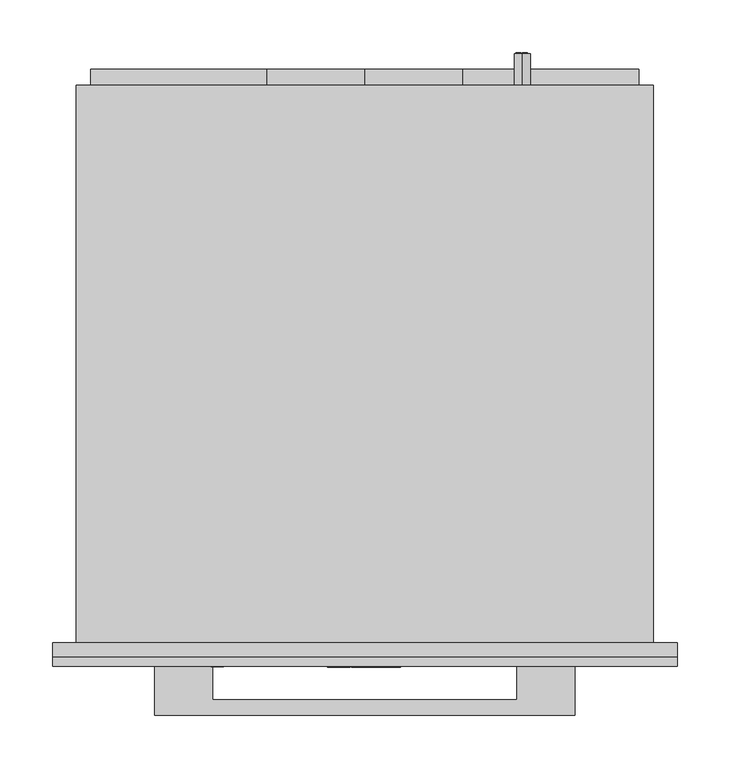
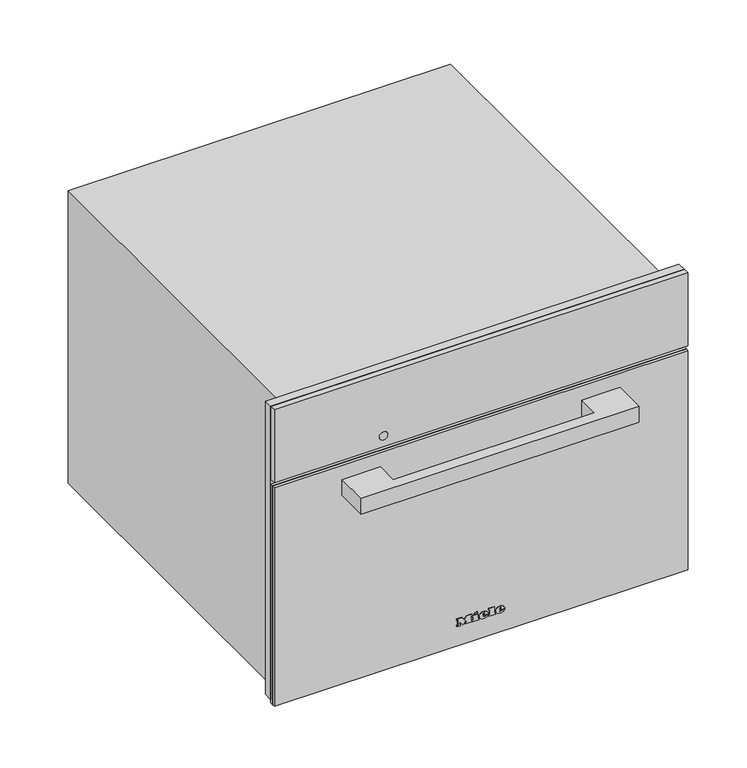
"""IFC4 building model written with IfcOpenShell, lengths in millimetres: proxy geometry, 11134220_I_DG7240_OBSW : 23724020_I_11134220_DG7240_OBSW."""

from ifc_helpers import new_model, si_unit, point, frame, frame_2d, origin, place, context, project, spatial, polyline, circle_curve, ellipse_curve, trimmed, segment, composite_curve, outline, extrude, faceted_brep, source, transform, mapped, element, save
from ifc_brep_helpers import plane_surface, cylinder_surface, revolved_surface, extruded_surface, advanced_brep


def specialty_equipment_6ac7eda2(model_context):
    return source(origin(), model_context, "Body", "SolidModel", [
        extrude(outline(polyline([(455.0, 297.5), (455.0, -297.5), (9.0, -297.5), (9.0, -272.5), (344.0, -272.5), (344.0, 272.5), (9.0, 272.5), (9.0, 297.5), (455.0, 297.5)])), frame((0.0, -13.0, 0.0), z_axis=(0.0, 1.0, 0.0), x_axis=(0.0, 0.0, 1.0)), (0.0, 0.0, 1.0), 13.0),
        advanced_brep(
        [(150.0, 561.0, 410.5), (150.0, 561.0, 395.5), (144.4098301, 561.0, 398.0), (148.5, 561.0, 398.0), (148.5, 561.0, 408.0), (147.4955303, 561.0, 408.0), (147.4955303, 561.0, 399.0), (144.0315043, 561.0, 399.0), (144.0315043, 561.0, 398.4582978), (155.0, 561.0, 398.0), (155.0, 561.0, 408.0), (150.0, 561.0, 408.0), (150.0, 561.0, 407.0), (154.0, 561.0, 407.0), (154.0, 561.0, 403.5), (151.0, 561.0, 403.5), (151.0, 561.0, 402.5), (154.0, 561.0, 402.5), (154.0, 561.0, 399.0), (150.0, 561.0, 399.0), (150.0, 561.0, 398.0), (150.0, 531.0, 395.5), (150.0, 531.0, 410.5), (155.0, 562.0, 408.0), (155.0, 562.0, 398.0), (150.0, 562.0, 398.0), (150.0, 562.0, 399.0), (154.0, 562.0, 399.0), (154.0, 562.0, 402.5), (151.0, 562.0, 402.5), (151.0, 562.0, 403.5), (154.0, 562.0, 403.5), (154.0, 562.0, 407.0), (150.0, 562.0, 407.0), (150.0, 562.0, 408.0), (148.5, 562.0, 398.0), (144.0315043, 562.0, 398.0), (144.0315043, 562.0, 399.0), (147.4955303, 562.0, 399.0), (147.4955303, 562.0, 408.0), (148.5, 562.0, 408.0), (144.0315043, 561.0, 398.0)],
        [
            (0, 1, circle_curve(frame((150.0, 561.0, 403.0), z_axis=(0.0, 1.0, 0.0), x_axis=(0.0, 0.0, 1.0)), 7.5)),
            (1, 2, circle_curve(frame((150.0, 561.0, 403.0), z_axis=(0.0, 1.0, 0.0), x_axis=(0.0, 0.0, 1.0)), 7.5)),
            (2, 3),
            (3, 4),
            (4, 5),
            (5, 6),
            (6, 7),
            (7, 8),
            (8, 0, circle_curve(frame((150.0, 561.0, 403.0), z_axis=(0.0, 1.0, 0.0), x_axis=(0.0, 0.0, 1.0)), 7.5)),
            (9, 10),
            (10, 11),
            (11, 12),
            (12, 13),
            (13, 14),
            (14, 15),
            (15, 16),
            (16, 17),
            (17, 18),
            (18, 19),
            (19, 20),
            (20, 9),
            (21, 22, circle_curve(frame((150.0, 531.0, 403.0), z_axis=(0.0, -1.0, 0.0), x_axis=(0.0, 0.0, 1.0)), 7.5)),
            (22, 21, circle_curve(frame((150.0, 531.0, 403.0), z_axis=(0.0, -1.0, 0.0), x_axis=(0.0, 0.0, 1.0)), 7.5)),
            (0, 22),
            (21, 1),
            (8, 2, circle_curve(frame((150.0, 561.0, 403.0), z_axis=(0.0, -1.0, 0.0), x_axis=(0.0, 0.0, 1.0)), 7.5)),
            (23, 24),
            (24, 25),
            (25, 26),
            (26, 27),
            (27, 28),
            (28, 29),
            (29, 30),
            (30, 31),
            (31, 32),
            (32, 33),
            (33, 34),
            (34, 23),
            (35, 36),
            (36, 37),
            (37, 38),
            (38, 39),
            (39, 40),
            (40, 35),
            (8, 41),
            (41, 2),
            (23, 10),
            (9, 24),
            (20, 25),
            (19, 26),
            (18, 27),
            (17, 28),
            (16, 29),
            (15, 30),
            (14, 31),
            (13, 32),
            (12, 33),
            (11, 34),
            (35, 3),
            (41, 36),
            (7, 37),
            (6, 38),
            (5, 39),
            (4, 40),
        ],
        [
            plane_surface(frame((150.0, 561.0, 410.5), z_axis=(0.0, 1.0, 0.0), x_axis=(1.0, 0.0, 0.0))),
            plane_surface(frame((150.0, 531.0, 410.5), z_axis=(0.0, -1.0, 0.0), x_axis=(-1.0, 0.0, 0.0))),
            cylinder_surface(frame((150.0, 561.0, 403.0), z_axis=(0.0, -1.0, 0.0), x_axis=(0.0, 0.0, 1.0)), 7.5),
            plane_surface(frame((155.0, 562.0, 408.0), z_axis=(0.0, 1.0, 0.0), x_axis=(0.0, 0.0, -1.0))),
            plane_surface(frame((155.0, 561.0, 408.0), z_axis=(0.0, -1.0, 0.0), x_axis=(0.0, 0.0, 1.0))),
            plane_surface(frame((155.0, 562.0, 408.0), z_axis=(1.0, 0.0, 0.0), x_axis=(0.0, -1.0, 0.0))),
            plane_surface(frame((155.0, 562.0, 398.0), z_axis=(0.0, 0.0, -1.0), x_axis=(0.0, -1.0, 0.0))),
            plane_surface(frame((150.0, 562.0, 398.0), z_axis=(-1.0, 0.0, 0.0), x_axis=(0.0, -1.0, 0.0))),
            plane_surface(frame((150.0, 562.0, 399.0), z_axis=(0.0, 0.0, 1.0), x_axis=(0.0, -1.0, 0.0))),
            plane_surface(frame((154.0, 562.0, 399.0), z_axis=(-1.0, 0.0, 0.0), x_axis=(0.0, -1.0, 0.0))),
            plane_surface(frame((154.0, 562.0, 402.5), z_axis=(0.0, 0.0, -1.0), x_axis=(0.0, -1.0, 0.0))),
            plane_surface(frame((151.0, 562.0, 402.5), z_axis=(-1.0, 0.0, 0.0), x_axis=(0.0, -1.0, 0.0))),
            plane_surface(frame((151.0, 562.0, 403.5), z_axis=(0.0, 0.0, 1.0), x_axis=(0.0, -1.0, 0.0))),
            plane_surface(frame((154.0, 562.0, 403.5), z_axis=(-1.0, 0.0, 0.0), x_axis=(0.0, -1.0, 0.0))),
            plane_surface(frame((154.0, 562.0, 407.0), z_axis=(0.0, 0.0, -1.0), x_axis=(0.0, -1.0, 0.0))),
            plane_surface(frame((150.0, 562.0, 407.0), z_axis=(-1.0, 0.0, 0.0), x_axis=(0.0, -1.0, 0.0))),
            plane_surface(frame((150.0, 562.0, 408.0), z_axis=(0.0, 0.0, 1.0), x_axis=(0.0, -1.0, 0.0))),
            plane_surface(frame((148.5, 562.0, 398.0), z_axis=(0.0, 0.0, -1.0), x_axis=(0.0, -1.0, 0.0))),
            plane_surface(frame((144.0315043, 562.0, 398.0), z_axis=(-1.0, 0.0, 0.0), x_axis=(0.0, -1.0, 0.0))),
            plane_surface(frame((144.0315043, 562.0, 399.0), z_axis=(0.0, 0.0, 1.0), x_axis=(0.0, -1.0, 0.0))),
            plane_surface(frame((147.4955303, 562.0, 399.0), z_axis=(-1.0, 0.0, 0.0), x_axis=(0.0, -1.0, 0.0))),
            plane_surface(frame((147.4955303, 562.0, 408.0), z_axis=(0.0, 0.0, 1.0), x_axis=(0.0, -1.0, 0.0))),
            plane_surface(frame((148.5, 562.0, 408.0), z_axis=(1.0, 0.0, 0.0), x_axis=(0.0, -1.0, 0.0))),
        ],
        [
            (0, [[1, 2, 3, 4, 5, 6, 7, 8, 9], [10, 11, 12, 13, 14, 15, 16, 17, 18, 19, 20, 21]]),
            (1, [[22, 23]]),
            (2, [[-1, 24, -22, 25]]),
            (2, [[-23, -24, -9, 26, -2, -25]]),
            (3, [[27, 28, 29, 30, 31, 32, 33, 34, 35, 36, 37, 38]]),
            (3, [[39, 40, 41, 42, 43, 44]]),
            (4, [[45, 46, -26]]),
            (5, [[-27, 47, -10, 48]]),
            (6, [[-28, -48, -21, 49]]),
            (7, [[-29, -49, -20, 50]]),
            (8, [[-30, -50, -19, 51]]),
            (9, [[-31, -51, -18, 52]]),
            (10, [[-32, -52, -17, 53]]),
            (11, [[-33, -53, -16, 54]]),
            (12, [[-34, -54, -15, 55]]),
            (13, [[-35, -55, -14, 56]]),
            (14, [[-36, -56, -13, 57]]),
            (15, [[-37, -57, -12, 58]]),
            (16, [[-38, -58, -11, -47]]),
            (17, [[-39, 59, -3, -46, 60]]),
            (18, [[-40, -60, -45, -8, 61]]),
            (19, [[-41, -61, -7, 62]]),
            (20, [[-42, -62, -6, 63]]),
            (21, [[-43, -63, -5, 64]]),
            (22, [[-44, -64, -4, -59]]),
        ],
    ),
        extrude(outline(polyline([(299.0, -93.0), (258.0, -93.0), (258.0, -261.0), (111.0, -261.0), (111.0, -93.0), (70.0, -93.0), (70.0, 0.0), (70.0, 93.0), (111.0, 93.0), (111.0, 261.0), (258.0, 261.0), (258.0, 93.0), (299.0, 93.0), (299.0, 0.0), (299.0, -93.0)])), frame((0.0, 531.0, 0.0), z_axis=(0.0, 1.0, 0.0), x_axis=(0.0, 0.0, 1.0)), (0.0, 0.0, 1.0), 15.0),
        faceted_brep([(275.0, 531.0, 445.0), (275.0, 531.0, 0.0), (-275.0, 531.0, 0.0), (-275.0, 531.0, 445.0), (275.0, 0.0, 445.0), (-275.0, 0.0, 445.0), (-275.0, 0.0, 0.0), (275.0, 0.0, 0.0), (-272.5, 0.0, 344.0), (272.5, 0.0, 344.0), (272.5, 0.0, 8.0), (-272.5, 0.0, 8.0), (272.5, 34.0, 344.0), (-272.5, 34.0, 344.0), (-272.5, 34.0, 8.0), (272.5, 34.0, 8.0), (161.0, 34.0, 286.0), (161.0, 34.0, 58.0), (-220.0, 34.0, 58.0), (-220.0, 34.0, 286.0), (161.0, 444.0, 286.0), (-220.0, 444.0, 286.0), (-220.0, 444.0, 58.0), (161.0, 444.0, 58.0)], [[[0, 1, 2, 3]], [[4, 5, 6, 7], [8, 9, 10, 11]], [[0, 3, 5, 4]], [[3, 2, 6, 5]], [[2, 1, 7, 6]], [[1, 0, 4, 7]], [[12, 13, 14, 15], [16, 17, 18, 19]], [[13, 12, 9, 8]], [[14, 13, 8, 11]], [[15, 14, 11, 10]], [[12, 15, 10, 9]], [[20, 21, 22, 23]], [[20, 23, 17, 16]], [[23, 22, 18, 17]], [[22, 21, 19, 18]], [[21, 20, 16, 19]]]),
        advanced_brep(
        [(26.2998, -23.0, 36.7018), (26.2998, -23.0, 37.8532), (33.9264, -23.0, 37.8532), (20.6568, -23.0, 37.8532), (23.7918, -23.0, 34.0), (33.7326, -23.0, 36.7018), (30.2898, -23.0, 36.7018), (27.5766, -23.0, 35.425), (26.2998, -23.0, 39.3124), (26.2998, -23.0, 40.555), (28.2492, -23.0, 40.555), (28.2492, -23.0, 39.3124), (26.2998, -22.0, 36.7018), (27.5766, -22.0, 35.425), (30.2898, -22.0, 36.7018), (33.7326, -22.0, 36.7018), (23.7918, -22.0, 34.0), (20.6568, -22.0, 37.8532), (33.9264, -22.0, 37.8532), (26.2998, -22.0, 37.8532), (26.2998, -22.0, 39.3124), (28.2492, -22.0, 39.3124), (28.2492, -22.0, 40.555), (26.2998, -22.0, 40.555)],
        [
            (0, 1),
            (1, 2),
            (2, 3, ellipse_curve(frame((27.2916, -23.0, 37.8532), z_axis=(0.0, -1.0, 0.0), x_axis=(-1.0, 0.0, 0.0)), 6.6348, 5.4834)),
            (3, 4, circle_curve(frame((25.0686622, -23.0, 38.2408), z_axis=(0.0, -1.0, 0.0), x_axis=(0.0, 0.0, -1.0)), 4.4288556)),
            (4, 5, circle_curve(frame((27.1587808, -23.0, 41.2504), z_axis=(0.0, -1.0, 0.0), x_axis=(0.0, 0.0, -1.0)), 7.9940516)),
            (5, 6),
            (6, 7, circle_curve(frame((28.1338588, -23.0, 37.762), z_axis=(0.0, 1.0, 0.0), x_axis=(0.0, 0.0, -1.0)), 2.4025208)),
            (7, 0, circle_curve(frame((27.5766, -23.0, 36.7018), z_axis=(0.0, 1.0, 0.0), x_axis=(0.0, 0.0, -1.0)), 1.2768)),
            (8, 9),
            (9, 10, circle_curve(frame((27.2745, -23.0, 40.555), z_axis=(0.0, 1.0, 0.0), x_axis=(0.0, 0.0, -1.0)), 0.9747)),
            (10, 11),
            (11, 8),
            (12, 13, circle_curve(frame((27.5766, -22.0, 36.7018), z_axis=(0.0, -1.0, 0.0), x_axis=(0.0, 0.0, -1.0)), 1.2768)),
            (13, 14, circle_curve(frame((28.1338588, -22.0, 37.762), z_axis=(0.0, -1.0, 0.0), x_axis=(0.0, 0.0, -1.0)), 2.4025208)),
            (14, 15),
            (15, 16, circle_curve(frame((27.1587808, -22.0, 41.2504), z_axis=(0.0, 1.0, 0.0), x_axis=(0.0, 0.0, -1.0)), 7.9940516)),
            (16, 17, circle_curve(frame((25.0686622, -22.0, 38.2408), z_axis=(0.0, 1.0, 0.0), x_axis=(0.0, 0.0, -1.0)), 4.4288556)),
            (17, 18, ellipse_curve(frame((27.2916, -22.0, 37.8532), z_axis=(0.0, 1.0, 0.0), x_axis=(-1.0, 0.0, 0.0)), 6.6348, 5.4834)),
            (18, 19),
            (19, 12),
            (20, 21),
            (21, 22),
            (22, 23, circle_curve(frame((27.2745, -22.0, 40.555), z_axis=(0.0, -1.0, 0.0), x_axis=(0.0, 0.0, -1.0)), 0.9747)),
            (23, 20),
            (0, 12),
            (19, 1),
            (18, 2),
            (5, 15),
            (14, 6),
            (17, 3),
            (13, 7),
            (16, 4),
            (8, 20),
            (23, 9),
            (22, 10),
            (21, 11),
        ],
        [
            plane_surface(frame((26.2998, -23.0, 37.8532), z_axis=(0.0, -1.0, 0.0), x_axis=(0.0, 0.0, 1.0))),
            plane_surface(frame((26.2998, -22.0, 37.8532), z_axis=(0.0, 1.0, 0.0), x_axis=(0.0, 0.0, -1.0))),
            plane_surface(frame((26.2998, -23.0, 36.7018), z_axis=(1.0, 0.0, 0.0), x_axis=(0.0, 1.0, 0.0))),
            plane_surface(frame((26.2998, -23.0, 37.8532), z_axis=(0.0, 0.0, -1.0), x_axis=(0.0, 1.0, 0.0))),
            plane_surface(frame((33.7326, -23.0, 36.7018), z_axis=(0.0, 0.0, 1.0), x_axis=(0.0, 1.0, 0.0))),
            extruded_surface(trimmed(ellipse_curve(frame((27.2916, -21.0, 37.8532), z_axis=(0.0, -1.0, 0.0), x_axis=(-1.0, 0.0, 0.0)), 6.6348, 5.4834), [point((33.9264, -21.0, 37.8532))], [point((20.6568, -21.0, 37.8532))], True, "CARTESIAN"), (0.0, -1.0, 0.0), 1.0),
            revolved_surface(polyline([(28.1338588, -22.0, 35.3594792), (28.1338588, -23.0, 35.3594792)]), (28.1338588, -22.0, 37.762), (0.0, 1.0, 0.0)),
            revolved_surface(polyline([(27.5766, -22.0, 35.425), (27.5766, -23.0, 35.425)]), (27.5766, -22.0, 36.7018), (0.0, 1.0, 0.0)),
            cylinder_surface(frame((25.0686622, -22.0, 38.2408), z_axis=(0.0, -1.0, 0.0), x_axis=(0.0, 0.0, -1.0)), 4.4288556),
            cylinder_surface(frame((27.1587808, -22.0, 41.2504), z_axis=(0.0, -1.0, 0.0), x_axis=(0.0, 0.0, -1.0)), 7.9940516),
            plane_surface(frame((26.2998, -23.0, 39.3124), z_axis=(1.0, 0.0, 0.0), x_axis=(0.0, 1.0, 0.0))),
            revolved_surface(polyline([(27.2745, -22.0, 39.5803), (27.2745, -23.0, 39.5803)]), (27.2745, -22.0, 40.555), (0.0, 1.0, 0.0)),
            plane_surface(frame((28.2492, -23.0, 40.555), z_axis=(-1.0, 0.0, 0.0), x_axis=(0.0, 1.0, 0.0))),
            plane_surface(frame((28.2492, -23.0, 39.3124), z_axis=(0.0, 0.0, 1.0), x_axis=(0.0, 1.0, 0.0))),
        ],
        [
            (0, [[1, 2, 3, 4, 5, 6, 7, 8], [9, 10, 11, 12]]),
            (1, [[13, 14, 15, 16, 17, 18, 19, 20], [21, 22, 23, 24]]),
            (2, [[-1, 25, -20, 26]]),
            (3, [[-2, -26, -19, 27]]),
            (4, [[-6, 28, -15, 29]]),
            (5, [[-3, -27, -18, 30]]),
            (6, [[-7, -29, -14, 31]]),
            (7, [[-8, -31, -13, -25]]),
            (8, [[-4, -30, -17, 32]]),
            (9, [[-5, -32, -16, -28]]),
            (10, [[-9, 33, -24, 34]]),
            (11, [[-10, -34, -23, 35]]),
            (12, [[-11, -35, -22, 36]]),
            (13, [[-12, -36, -21, -33]]),
        ],
    ),
        advanced_brep(
        [(2.508, -23.0, 36.7018), (2.508, -23.0, 37.8532), (10.1346, -23.0, 37.8532), (-3.135, -23.0, 37.8532), (0.0, -23.0, 34.0), (9.9408, -23.0, 36.7018), (6.498, -23.0, 36.7018), (3.7848, -23.0, 35.425), (2.508, -23.0, 39.3124), (2.508, -23.0, 40.555), (4.4574, -23.0, 40.555), (4.4574, -23.0, 39.3124), (2.508, -22.0, 36.7018), (3.7848, -22.0, 35.425), (6.498, -22.0, 36.7018), (9.9408, -22.0, 36.7018), (0.0, -22.0, 34.0), (-3.135, -22.0, 37.8532), (10.1346, -22.0, 37.8532), (2.508, -22.0, 37.8532), (2.508, -22.0, 39.3124), (4.4574, -22.0, 39.3124), (4.4574, -22.0, 40.555), (2.508, -22.0, 40.555)],
        [
            (0, 1),
            (1, 2),
            (2, 3, ellipse_curve(frame((3.4998, -23.0, 37.8532), z_axis=(0.0, -1.0, 0.0), x_axis=(-1.0, 0.0, 0.0)), 6.6348, 5.4834)),
            (3, 4, circle_curve(frame((1.2768622, -23.0, 38.2408), z_axis=(0.0, -1.0, 0.0), x_axis=(0.0, 0.0, -1.0)), 4.4288556)),
            (4, 5, circle_curve(frame((3.3669808, -23.0, 41.2504), z_axis=(0.0, -1.0, 0.0), x_axis=(0.0, 0.0, -1.0)), 7.9940516)),
            (5, 6),
            (6, 7, circle_curve(frame((4.3420588, -23.0, 37.762), z_axis=(0.0, 1.0, 0.0), x_axis=(0.0, 0.0, -1.0)), 2.4025208)),
            (7, 0, circle_curve(frame((3.7848, -23.0, 36.7018), z_axis=(0.0, 1.0, 0.0), x_axis=(0.0, 0.0, -1.0)), 1.2768)),
            (8, 9),
            (9, 10, circle_curve(frame((3.4827, -23.0, 40.555), z_axis=(0.0, 1.0, 0.0), x_axis=(0.0, 0.0, -1.0)), 0.9747)),
            (10, 11),
            (11, 8),
            (12, 13, circle_curve(frame((3.7848, -22.0, 36.7018), z_axis=(0.0, -1.0, 0.0), x_axis=(0.0, 0.0, -1.0)), 1.2768)),
            (13, 14, circle_curve(frame((4.3420588, -22.0, 37.762), z_axis=(0.0, -1.0, 0.0), x_axis=(0.0, 0.0, -1.0)), 2.4025208)),
            (14, 15),
            (15, 16, circle_curve(frame((3.3669808, -22.0, 41.2504), z_axis=(0.0, 1.0, 0.0), x_axis=(0.0, 0.0, -1.0)), 7.9940516)),
            (16, 17, circle_curve(frame((1.2768622, -22.0, 38.2408), z_axis=(0.0, 1.0, 0.0), x_axis=(0.0, 0.0, -1.0)), 4.4288556)),
            (17, 18, ellipse_curve(frame((3.4998, -22.0, 37.8532), z_axis=(0.0, 1.0, 0.0), x_axis=(-1.0, 0.0, 0.0)), 6.6348, 5.4834)),
            (18, 19),
            (19, 12),
            (20, 21),
            (21, 22),
            (22, 23, circle_curve(frame((3.4827, -22.0, 40.555), z_axis=(0.0, -1.0, 0.0), x_axis=(0.0, 0.0, -1.0)), 0.9747)),
            (23, 20),
            (0, 12),
            (19, 1),
            (18, 2),
            (5, 15),
            (14, 6),
            (17, 3),
            (13, 7),
            (16, 4),
            (8, 20),
            (23, 9),
            (22, 10),
            (21, 11),
        ],
        [
            plane_surface(frame((2.508, -23.0, 37.8532), z_axis=(0.0, -1.0, 0.0), x_axis=(0.0, 0.0, 1.0))),
            plane_surface(frame((2.508, -22.0, 37.8532), z_axis=(0.0, 1.0, 0.0), x_axis=(0.0, 0.0, -1.0))),
            plane_surface(frame((2.508, -23.0, 36.7018), z_axis=(1.0, 0.0, 0.0), x_axis=(0.0, 1.0, 0.0))),
            plane_surface(frame((2.508, -23.0, 37.8532), z_axis=(0.0, 0.0, -1.0), x_axis=(0.0, 1.0, 0.0))),
            plane_surface(frame((9.9408, -23.0, 36.7018), z_axis=(0.0, 0.0, 1.0), x_axis=(0.0, 1.0, 0.0))),
            extruded_surface(trimmed(ellipse_curve(frame((3.4998, -21.0, 37.8532), z_axis=(0.0, -1.0, 0.0), x_axis=(-1.0, 0.0, 0.0)), 6.6348, 5.4834), [point((10.1346, -21.0, 37.8532))], [point((-3.135, -21.0, 37.8532))], True, "CARTESIAN"), (0.0, -1.0, 0.0), 1.0),
            revolved_surface(polyline([(4.3420588, -22.0, 35.3594792), (4.3420588, -23.0, 35.3594792)]), (4.3420588, -22.0, 37.762), (0.0, 1.0, 0.0)),
            revolved_surface(polyline([(3.7848, -22.0, 35.425), (3.7848, -23.0, 35.425)]), (3.7848, -22.0, 36.7018), (0.0, 1.0, 0.0)),
            cylinder_surface(frame((1.2768622, -22.0, 38.2408), z_axis=(0.0, -1.0, 0.0), x_axis=(0.0, 0.0, -1.0)), 4.4288556),
            cylinder_surface(frame((3.3669808, -22.0, 41.2504), z_axis=(0.0, -1.0, 0.0), x_axis=(0.0, 0.0, -1.0)), 7.9940516),
            plane_surface(frame((2.508, -23.0, 39.3124), z_axis=(1.0, 0.0, 0.0), x_axis=(0.0, 1.0, 0.0))),
            revolved_surface(polyline([(3.4827, -22.0, 39.5803), (3.4827, -23.0, 39.5803)]), (3.4827, -22.0, 40.555), (0.0, 1.0, 0.0)),
            plane_surface(frame((4.4574, -23.0, 40.555), z_axis=(-1.0, 0.0, 0.0), x_axis=(0.0, 1.0, 0.0))),
            plane_surface(frame((4.4574, -23.0, 39.3124), z_axis=(0.0, 0.0, 1.0), x_axis=(0.0, 1.0, 0.0))),
        ],
        [
            (0, [[1, 2, 3, 4, 5, 6, 7, 8], [9, 10, 11, 12]]),
            (1, [[13, 14, 15, 16, 17, 18, 19, 20], [21, 22, 23, 24]]),
            (2, [[-1, 25, -20, 26]]),
            (3, [[-2, -26, -19, 27]]),
            (4, [[-6, 28, -15, 29]]),
            (5, [[-3, -27, -18, 30]]),
            (6, [[-7, -29, -14, 31]]),
            (7, [[-8, -31, -13, -25]]),
            (8, [[-4, -30, -17, 32]]),
            (9, [[-5, -32, -16, -28]]),
            (10, [[-9, 33, -24, 34]]),
            (11, [[-10, -34, -23, 35]]),
            (12, [[-11, -35, -22, 36]]),
            (13, [[-12, -36, -21, -33]]),
        ],
    ),
        extrude(outline(polyline([(44.7274, -9.9522), (42.8806, -9.0858), (44.6818, -5.2212), (46.5286, -6.0762), (44.7274, -9.9522)])), frame((0.0, -23.0, 0.0), z_axis=(0.0, 1.0, 0.0), x_axis=(0.0, 0.0, 1.0)), (0.0, 0.0, 1.0), 1.0),
        extrude(outline(polyline([(42.6298, -12.768), (40.5892, -12.768), (40.5892, -11.4114), (35.9152, -11.4114), (35.9152, -12.768), (34.0, -12.768), (34.0, -3.7734), (35.9152, -3.7734), (35.9152, -5.0958), (42.6298, -5.0958), (42.6298, -12.768)])), frame((0.0, -23.0, 0.0), z_axis=(0.0, 1.0, 0.0), x_axis=(0.0, 0.0, 1.0)), (0.0, 0.0, 1.0), 1.0),
        extrude(outline(polyline([(43.5418, 10.773), (43.5418, 12.141), (35.9152, 12.141), (35.9152, 10.773), (34.0, 10.773), (34.0, 20.0184), (35.9152, 20.0184), (35.9152, 18.6162), (45.4, 18.6162), (45.4, 10.773), (43.5418, 10.773)])), frame((0.0, -23.0, 0.0), z_axis=(0.0, 1.0, 0.0), x_axis=(0.0, 0.0, 1.0)), (0.0, 0.0, 1.0), 1.0),
        extrude(outline(polyline([(43.5418, -35.4882), (43.5418, -34.1088), (35.9152, -34.1088), (35.9152, -35.4882), (34.0, -35.4882), (34.0, -30.4722), (35.9152, -30.4722), (35.9152, -31.8402), (40.7429247, -31.8402), (34.0, -26.7444), (40.9402223, -21.6258), (35.9152, -21.6258), (35.9152, -23.028), (34.0, -23.028), (34.0, -13.9308), (35.9152, -13.9308), (35.9152, -15.3786), (43.5418, -15.3786), (43.5418, -13.9308), (45.4, -13.9308), (45.4, -20.8734), (41.125, -24.2022), (45.4, -27.5424), (45.4, -35.4882), (43.5418, -35.4882)])), frame((0.0, -23.0, 0.0), z_axis=(0.0, 1.0, 0.0), x_axis=(0.0, 0.0, 1.0)), (0.0, 0.0, 1.0), 1.0),
        extrude(outline(polyline([(297.5, -22.0), (-297.5, -22.0), (-297.5, -13.0), (297.5, -13.0), (297.5, -22.0)])), frame((0.0, 0.0, 344.0), z_axis=(0.0, 0.0, 1.0), x_axis=(1.0, 0.0, 0.0)), (0.0, 0.0, 1.0), 111.0),
        extrude(outline(composite_curve([segment(trimmed(circle_curve(frame_2d((361.0, -140.5745637)), 6.0), [point((361.0, -146.5745637))], [point((361.0, -134.5745637))], False, "CARTESIAN"), True, "CONTINUOUS"), segment(trimmed(circle_curve(frame_2d((361.0, -140.5745637)), 6.0), [point((361.0, -134.5745637))], [point((361.0, -146.5745637))], False, "CARTESIAN"), True, "CONTINUOUS")], self_intersect=False)), frame((0.0, -22.5, 0.0), z_axis=(0.0, 1.0, 0.0), x_axis=(0.0, 0.0, 1.0)), (0.0, 0.0, 1.0), 1.0),
        extrude(outline(polyline([(-200.0, -69.0), (-200.0, -22.0), (-145.0, -22.0), (-145.0, -54.0), (145.0, -54.0), (145.0, -22.0), (200.0, -22.0), (200.0, -69.0), (-200.0, -69.0)])), frame((0.0, 0.0, 291.0), z_axis=(0.0, 0.0, 1.0), x_axis=(1.0, 0.0, 0.0)), (0.0, 0.0, 1.0), 24.0),
        extrude(outline(polyline([(297.5, -18.0), (-297.5, -18.0), (-297.5, -13.0), (297.5, -13.0), (297.5, -18.0)])), frame((0.0, 0.0, 4.0), z_axis=(0.0, 0.0, 1.0), x_axis=(1.0, 0.0, 0.0)), (0.0, 0.0, 1.0), 333.0),
        extrude(outline(polyline([(-297.5, -18.0), (297.5, -18.0), (297.5, -22.0), (-297.5, -22.0), (-297.5, -18.0)])), frame((0.0, 0.0, 4.0), z_axis=(0.0, 0.0, 1.0), x_axis=(1.0, 0.0, 0.0)), (0.0, 0.0, 1.0), 333.0),
    ])


if __name__ == "__main__":
    model = new_model("IFC4")
    model_context = context("Model", 3, world=origin())
    ifc_project = project(units=[si_unit("LENGTHUNIT", "METRE", prefix="MILLI")], contexts=[model_context])
    site = spatial("IfcSite", under=ifc_project)
    building = spatial("IfcBuilding", under=site)
    placement = place(None, origin())
    specialty_equipment_shape = specialty_equipment_6ac7eda2(model_context)
    element("IfcBuildingElementProxy", 1, Name="11134220_I_DG7240_OBSW : 23724020_I_11134220_DG7240_OBSW", ObjectType="11134220_I_DG7240_OBSW : 23724020_I_11134220_DG7240_OBSW", at=placement, inside=building, context=model_context, shape_type="MappedRepresentation", body=[
        mapped(specialty_equipment_shape, transform((0.0, 0.0, 0.0), x_axis=(1.0, 0.0, 0.0), y_axis=(0.0, 1.0, 0.0), z_axis=(0.0, 0.0, 1.0))),
    ])
    save(model, "model.ifc")
